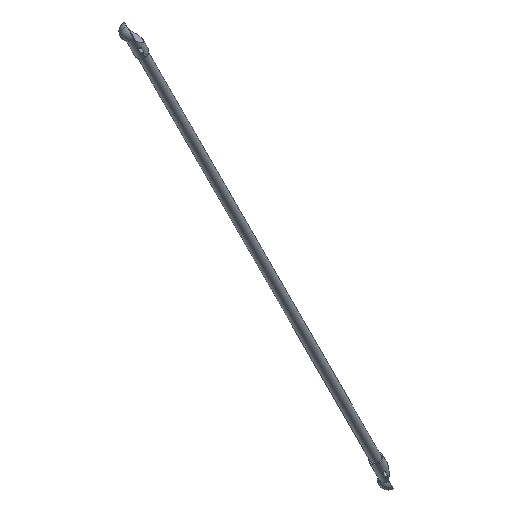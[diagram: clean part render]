
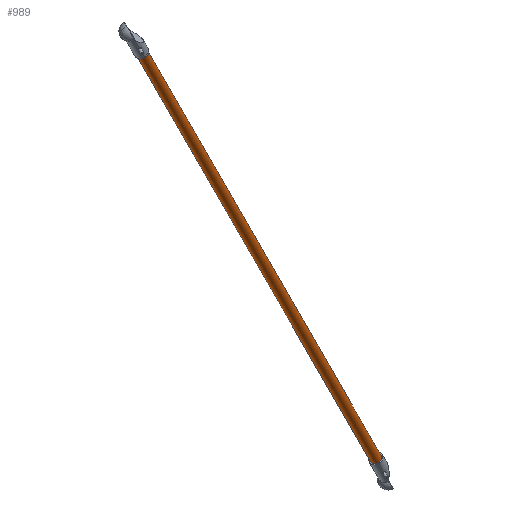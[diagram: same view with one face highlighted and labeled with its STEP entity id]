
A CAD part, top view. The second image highlights one B-rep face of the part: STEP entity #989.
In plain terms, the highlighted cylindrical face has radius 7 mm (diameter 14 mm), a partial arc.
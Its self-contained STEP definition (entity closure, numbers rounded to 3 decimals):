
#16 = VERTEX_POINT ( 'NONE', #1667 ) ;
#67 = LINE ( 'NONE', #611, #404 ) ;
#108 = VERTEX_POINT ( 'NONE', #1284 ) ;
#252 = DIRECTION ( 'NONE',  ( 0.266, -0.459, -0.848 ) ) ;
#266 = EDGE_CURVE ( 'NONE', #16, #766, #1727, .T. ) ;
#383 = DIRECTION ( 'NONE',  ( -0.266, 0.459, 0.848 ) ) ;
#395 = ORIENTED_EDGE ( 'NONE', *, *, #1613, .F. ) ;
#401 = AXIS2_PLACEMENT_3D ( 'NONE', #808, #1210, #939 ) ;
#404 = VECTOR ( 'NONE', #1149, 1000. ) ;
#509 = ORIENTED_EDGE ( 'NONE', *, *, #266, .T. ) ;
#521 = AXIS2_PLACEMENT_3D ( 'NONE', #1289, #794, #1452 ) ;
#611 = CARTESIAN_POINT ( 'NONE',  ( -345.623, 509.539, -303.304 ) ) ;
#613 = AXIS2_PLACEMENT_3D ( 'NONE', #1414, #383, #1696 ) ;
#680 = VECTOR ( 'NONE', #252, 1000. ) ;
#685 = EDGE_LOOP ( 'NONE', ( #395, #509, #1388, #865 ) ) ;
#708 = EDGE_CURVE ( 'NONE', #1088, #108, #67, .T. ) ;
#766 = VERTEX_POINT ( 'NONE', #1418 ) ;
#794 = DIRECTION ( 'NONE',  ( -0.266, 0.459, 0.848 ) ) ;
#808 = CARTESIAN_POINT ( 'NONE',  ( -351.685, 506.039, -303.309 ) ) ;
#865 = ORIENTED_EDGE ( 'NONE', *, *, #708, .F. ) ;
#930 = FACE_OUTER_BOUND ( 'NONE', #685, .T. ) ;
#939 = DIRECTION ( 'NONE',  ( 0.866, 0.5, 0.001 ) ) ;
#989 = ADVANCED_FACE ( 'NONE', ( #930 ), #1370, .T. ) ;
#1088 = VERTEX_POINT ( 'NONE', #1271 ) ;
#1149 = DIRECTION ( 'NONE',  ( 0.266, -0.459, -0.848 ) ) ;
#1197 = EDGE_CURVE ( 'NONE', #766, #108, #1503, .T. ) ;
#1210 = DIRECTION ( 'NONE',  ( 0.266, -0.459, -0.848 ) ) ;
#1271 = CARTESIAN_POINT ( 'NONE',  ( -340.574, 500.813, -319.409 ) ) ;
#1284 = CARTESIAN_POINT ( 'NONE',  ( -74.573, 41.099, -1167.883 ) ) ;
#1289 = CARTESIAN_POINT ( 'NONE',  ( -80.635, 37.599, -1167.887 ) ) ;
#1292 = CIRCLE ( 'NONE', #613, 7. ) ;
#1370 = CYLINDRICAL_SURFACE ( 'NONE', #401, 7. ) ;
#1388 = ORIENTED_EDGE ( 'NONE', *, *, #1197, .T. ) ;
#1414 = CARTESIAN_POINT ( 'NONE',  ( -346.636, 497.313, -319.413 ) ) ;
#1418 = CARTESIAN_POINT ( 'NONE',  ( -86.697, 34.099, -1167.891 ) ) ;
#1452 = DIRECTION ( 'NONE',  ( 0.866, 0.5, 0.001 ) ) ;
#1456 = CARTESIAN_POINT ( 'NONE',  ( -357.747, 502.539, -303.313 ) ) ;
#1503 = CIRCLE ( 'NONE', #521, 7. ) ;
#1613 = EDGE_CURVE ( 'NONE', #16, #1088, #1292, .T. ) ;
#1667 = CARTESIAN_POINT ( 'NONE',  ( -352.698, 493.813, -319.418 ) ) ;
#1696 = DIRECTION ( 'NONE',  ( -0.424, 0.734, -0.531 ) ) ;
#1727 = LINE ( 'NONE', #1456, #680 ) ;
